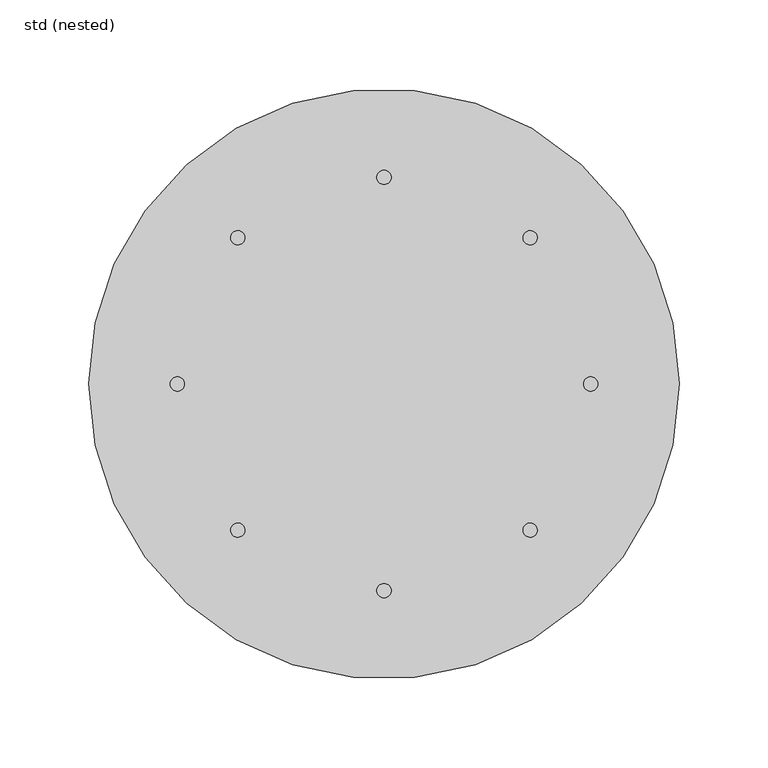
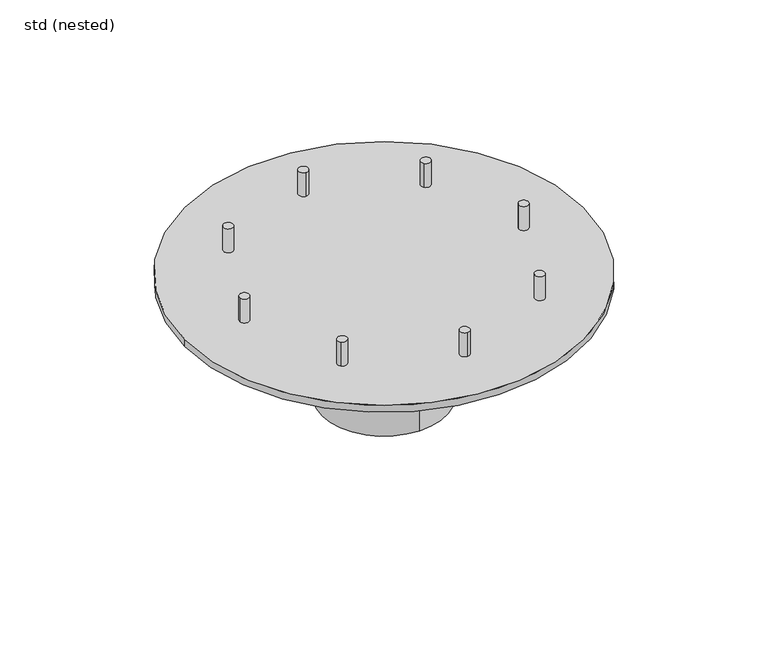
"""IFC4 building model written with IfcOpenShell, lengths in millimetres: sanitary terminal geometry, ZZZ_do not use_PF_ST_bottom part for 2-piece_ACO : std (nested)."""

from ifc_helpers import new_model, si_unit, point, frame, frame_2d, origin, origin_with_axes, place, context, project, spatial, circle_curve, trimmed, segment, composite_curve, outline, extrude, source, transform, mapped, element, save
from ifc_brep_helpers import plane_surface, cylinder_surface, advanced_brep


def std_nested_f304a034(model_context):
    return source(origin(), model_context, "Body", "SolidModel", [
        extrude(outline(composite_curve([segment(trimmed(circle_curve(frame_2d((-82.2011633, 82.2011633)), 4.0), [point((-85.0295904, 85.0295904))], [point((-79.3727362, 79.3727362))], False, "CARTESIAN"), True, "CONTINUOUS"), segment(trimmed(circle_curve(frame_2d((-82.2011633, 82.2011633)), 4.0), [point((-79.3727362, 79.3727362))], [point((-85.0295904, 85.0295904))], False, "CARTESIAN"), True, "CONTINUOUS")], self_intersect=False)), origin_with_axes(), (0.0, 0.0, 1.0), 21.0),
        extrude(outline(composite_curve([segment(trimmed(circle_curve(frame_2d((-116.25, 0.0)), 4.0), [point((-120.25, 0.0))], [point((-112.25, 0.0))], False, "CARTESIAN"), True, "CONTINUOUS"), segment(trimmed(circle_curve(frame_2d((-116.25, 0.0)), 4.0), [point((-112.25, 0.0))], [point((-120.25, 0.0))], False, "CARTESIAN"), True, "CONTINUOUS")], self_intersect=False)), origin_with_axes(), (0.0, 0.0, 1.0), 21.0),
        extrude(outline(composite_curve([segment(trimmed(circle_curve(frame_2d((-82.2011633, -82.2011633)), 4.0), [point((-85.0295904, -85.0295904))], [point((-79.3727362, -79.3727362))], False, "CARTESIAN"), True, "CONTINUOUS"), segment(trimmed(circle_curve(frame_2d((-82.2011633, -82.2011633)), 4.0), [point((-79.3727362, -79.3727362))], [point((-85.0295904, -85.0295904))], False, "CARTESIAN"), True, "CONTINUOUS")], self_intersect=False)), origin_with_axes(), (0.0, 0.0, 1.0), 21.0),
        extrude(outline(composite_curve([segment(trimmed(circle_curve(frame_2d((0.0, -116.25)), 4.0), [point((0.0, -120.25))], [point((0.0, -112.25))], False, "CARTESIAN"), True, "CONTINUOUS"), segment(trimmed(circle_curve(frame_2d((0.0, -116.25)), 4.0), [point((0.0, -112.25))], [point((0.0, -120.25))], False, "CARTESIAN"), True, "CONTINUOUS")], self_intersect=False)), origin_with_axes(), (0.0, 0.0, 1.0), 21.0),
        extrude(outline(composite_curve([segment(trimmed(circle_curve(frame_2d((82.2011633, -82.2011633)), 4.0), [point((85.0295904, -85.0295904))], [point((79.3727362, -79.3727362))], False, "CARTESIAN"), True, "CONTINUOUS"), segment(trimmed(circle_curve(frame_2d((82.2011633, -82.2011633)), 4.0), [point((79.3727362, -79.3727362))], [point((85.0295904, -85.0295904))], False, "CARTESIAN"), True, "CONTINUOUS")], self_intersect=False)), origin_with_axes(), (0.0, 0.0, 1.0), 21.0),
        extrude(outline(composite_curve([segment(trimmed(circle_curve(frame_2d((116.25, 0.0)), 4.0), [point((120.25, 0.0))], [point((112.25, 0.0))], False, "CARTESIAN"), True, "CONTINUOUS"), segment(trimmed(circle_curve(frame_2d((116.25, 0.0)), 4.0), [point((112.25, 0.0))], [point((120.25, 0.0))], False, "CARTESIAN"), True, "CONTINUOUS")], self_intersect=False)), origin_with_axes(), (0.0, 0.0, 1.0), 21.0),
        extrude(outline(composite_curve([segment(trimmed(circle_curve(frame_2d((82.2011633, 82.2011633)), 4.0), [point((85.0295904, 85.0295904))], [point((79.3727362, 79.3727362))], False, "CARTESIAN"), True, "CONTINUOUS"), segment(trimmed(circle_curve(frame_2d((82.2011633, 82.2011633)), 4.0), [point((79.3727362, 79.3727362))], [point((85.0295904, 85.0295904))], False, "CARTESIAN"), True, "CONTINUOUS")], self_intersect=False)), origin_with_axes(), (0.0, 0.0, 1.0), 21.0),
        extrude(outline(composite_curve([segment(trimmed(circle_curve(frame_2d((0.0, 116.25)), 4.0), [point((0.0, 120.25))], [point((0.0, 112.25))], False, "CARTESIAN"), True, "CONTINUOUS"), segment(trimmed(circle_curve(frame_2d((0.0, 116.25)), 4.0), [point((0.0, 112.25))], [point((0.0, 120.25))], False, "CARTESIAN"), True, "CONTINUOUS")], self_intersect=False)), origin_with_axes(), (0.0, 0.0, 1.0), 21.0),
        advanced_brep(
        [(0.0, -51.5, -107.2630202), (0.0, 51.5, -107.2630202), (0.0, 51.5, -6.0), (0.0, -51.5, -6.0), (-166.0, 0.0, -6.0), (166.0, 0.0, -6.0), (-166.0, 0.0, 0.0), (166.0, 0.0, 0.0)],
        [
            (0, 1, circle_curve(frame((0.0, 0.0, -107.2630202), z_axis=(0.0, 0.0, 1.0), x_axis=(0.0, 1.0, 0.0)), 51.5)),
            (1, 2),
            (2, 3, circle_curve(frame((0.0, 0.0, -6.0), z_axis=(0.0, 0.0, -1.0), x_axis=(0.0, 1.0, 0.0)), 51.5)),
            (3, 0),
            (1, 0, circle_curve(frame((0.0, 0.0, -107.2630202), z_axis=(0.0, 0.0, 1.0), x_axis=(0.0, 1.0, 0.0)), 51.5)),
            (3, 2, circle_curve(frame((0.0, 0.0, -6.0), z_axis=(0.0, 0.0, -1.0), x_axis=(0.0, 1.0, 0.0)), 51.5)),
            (4, 5, circle_curve(frame((0.0, 0.0, -6.0), z_axis=(0.0, 0.0, -1.0), x_axis=(1.0, 0.0, 0.0)), 166.0)),
            (5, 4, circle_curve(frame((0.0, 0.0, -6.0), z_axis=(0.0, 0.0, -1.0), x_axis=(1.0, 0.0, 0.0)), 166.0)),
            (6, 7, circle_curve(origin_with_axes(), 166.0)),
            (7, 6, circle_curve(origin_with_axes(), 166.0)),
            (5, 7),
            (6, 4),
        ],
        [
            cylinder_surface(frame((0.0, 0.0, -107.2630202), z_axis=(0.0, 0.0, 1.0), x_axis=(0.0, 1.0, 0.0)), 51.5),
            plane_surface(frame((166.0, 0.0, -6.0), z_axis=(0.0, 0.0, -1.0), x_axis=(0.0, -1.0, 0.0))),
            plane_surface(frame((166.0, 0.0, 0.0), z_axis=(0.0, 0.0, 1.0), x_axis=(0.0, 1.0, 0.0))),
            cylinder_surface(frame((0.0, 0.0, -6.0), z_axis=(0.0, 0.0, 1.0), x_axis=(1.0, 0.0, 0.0)), 166.0),
            plane_surface(frame((0.0, 51.5, -107.2630202), z_axis=(0.0, 0.0, -1.0), x_axis=(1.0, 0.0, 0.0))),
        ],
        [
            (0, [[1, 2, 3, 4]]),
            (0, [[5, -4, 6, -2]]),
            (1, [[7, 8], [-3, -6]]),
            (2, [[9, 10]]),
            (3, [[-8, 11, -9, 12]]),
            (3, [[-7, -12, -10, -11]]),
            (4, [[-5, -1]]),
        ],
    ),
    ])


if __name__ == "__main__":
    model = new_model("IFC4")
    model_context = context("Model", 3, world=origin())
    ifc_project = project(units=[si_unit("LENGTHUNIT", "METRE", prefix="MILLI")], contexts=[model_context])
    site = spatial("IfcSite", under=ifc_project)
    building = spatial("IfcBuilding", under=site)
    placement = place(None, origin())
    std_nested_shape = std_nested_f304a034(model_context)
    element("IfcSanitaryTerminal", 1, ObjectType="ZZZ_do not use_PF_ST_bottom part for 2-piece_ACO : std (nested)", at=placement, inside=building, context=model_context, shape_type="MappedRepresentation", body=[
        mapped(std_nested_shape, transform((0.0, 0.0, 0.0), x_axis=(1.0, 0.0, 0.0), y_axis=(0.0, 1.0, 0.0), z_axis=(0.0, 0.0, 1.0))),
    ])
    save(model, "model.ifc")
